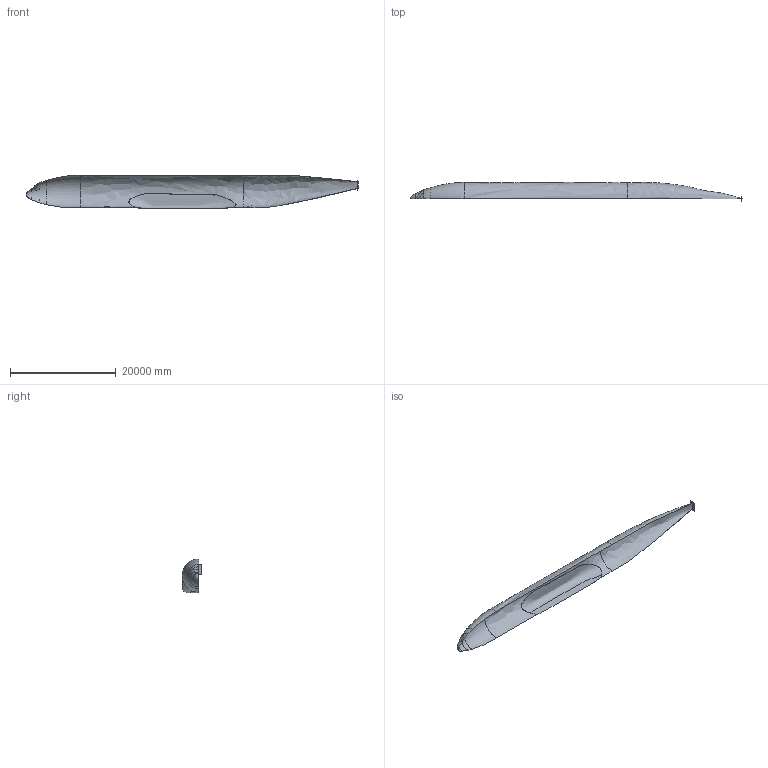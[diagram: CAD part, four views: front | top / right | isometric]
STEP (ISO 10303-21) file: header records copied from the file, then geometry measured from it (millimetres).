
FILE_DESCRIPTION(('CATIA V5 STEP Exchange'),'2;1');
FILE_NAME('\\nos\Data\CRM_HL\Test_Execution_Teams\ReferenceGeometry\catia\body01.stp','2022-12-08T21:07:12+00:00',('none'),('none'),'CATIA Version 5-6 Release 2018 SP6 HF6','CATIA V5 STEP AP203','none');
FILE_SCHEMA(('CONFIG_CONTROL_DESIGN'));
Products named in the file (1): fuselage
Bounding box: 62747.73 x 3606.8 x 6405.46 mm (x, y, z)
Surface area: 550747398.8 mm2 (no closed solid volume)
Topology: 0 solids, 5 shells, 15 faces, 114 edges, 99 vertices
Faces by surface type: bspline 14, plane 1
Entity records: 174737 total; most frequent: CARTESIAN_POINT 174150, ORIENTED_EDGE 141, EDGE_CURVE 109, B_SPLINE_CURVE_WITH_KNOTS 105, VERTEX_POINT 99, ADVANCED_FACE 15, EDGE_LOOP 15, FACE_OUTER_BOUND 15
